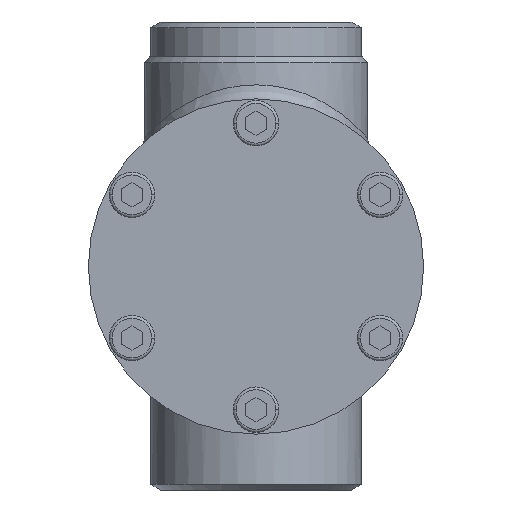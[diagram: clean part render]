
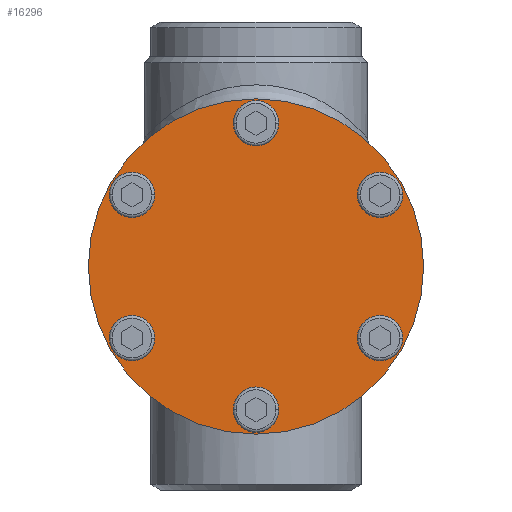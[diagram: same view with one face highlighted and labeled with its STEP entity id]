
A CAD part, front view. The second image highlights one B-rep face of the part: STEP entity #16296.
In plain terms, the highlighted planar face has unit normal (0, -1, 0) as drawn and (0, 0, -1) by its records, which use the part's own axes.
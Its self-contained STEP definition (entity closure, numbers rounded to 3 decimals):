
#16390 = EDGE_LOOP ( 'NONE', ( #15564, #14593 ) ) ;
#16465 = VERTEX_POINT ( 'NONE', #12244 ) ;
#16625 = ORIENTED_EDGE ( 'NONE', *, *, #13767, .F. ) ;
#16680 = EDGE_CURVE ( 'NONE', #16465, #16239, #13572, .T. ) ;
#16681 = EDGE_CURVE ( 'NONE', #5992, #8065, #13577, .T. ) ;
#17310 = ORIENTED_EDGE ( 'NONE', *, *, #28538, .F. ) ;
#17822 = EDGE_LOOP ( 'NONE', ( #17310, #16625 ) ) ;
#1467 = VERTEX_POINT ( 'NONE', #24530 ) ;
#18074 = ORIENTED_EDGE ( 'NONE', *, *, #6408, .F. ) ;
#1877 = EDGE_CURVE ( 'NONE', #6927, #1467, #25175, .T. ) ;
#1919 = CARTESIAN_POINT ( 'NONE',  ( 31.007, -20.5, -41.5 ) ) ;
#18409 = VERTEX_POINT ( 'NONE', #25573 ) ;
#2126 = CIRCLE ( 'NONE', #2127, 4.5 ) ;
#2127 = AXIS2_PLACEMENT_3D ( 'NONE', #2128, #2129, #2130 ) ;
#2128 = CARTESIAN_POINT ( 'NONE',  ( 35.507, -20.5, -41.5 ) ) ;
#2129 = DIRECTION ( 'NONE',  ( 0., 0., -1. ) ) ;
#2130 = DIRECTION ( 'NONE',  ( 0.5, 0.866, 0. ) ) ;
#18595 = ORIENTED_EDGE ( 'NONE', *, *, #16681, .F. ) ;
#2470 = CARTESIAN_POINT ( 'NONE',  ( 31.007, 20.5, -41.5 ) ) ;
#2541 = CARTESIAN_POINT ( 'NONE',  ( -31.007, 20.5, -41.5 ) ) ;
#19102 = VERTEX_POINT ( 'NONE', #27117 ) ;
#19121 = EDGE_LOOP ( 'NONE', ( #18595, #18074 ) ) ;
#2893 = CIRCLE ( 'NONE', #2894, 4.5 ) ;
#2894 = AXIS2_PLACEMENT_3D ( 'NONE', #2895, #2913, #2914 ) ;
#2895 = CARTESIAN_POINT ( 'NONE',  ( 35.507, 20.5, -41.5 ) ) ;
#19286 = EDGE_CURVE ( 'NONE', #18409, #19102, #27370, .T. ) ;
#2913 = DIRECTION ( 'NONE',  ( 0., 0., -1. ) ) ;
#2914 = DIRECTION ( 'NONE',  ( -0.5, 0.866, 0. ) ) ;
#19324 = ORIENTED_EDGE ( 'NONE', *, *, #7169, .F. ) ;
#19801 = EDGE_CURVE ( 'NONE', #1467, #6927, #27926, .T. ) ;
#21604 = VERTEX_POINT ( 'NONE', #9290 ) ;
#21830 = EDGE_CURVE ( 'NONE', #22719, #21604, #9695, .T. ) ;
#5992 = VERTEX_POINT ( 'NONE', #1919 ) ;
#22461 = EDGE_CURVE ( 'NONE', #16239, #16465, #10720, .T. ) ;
#22719 = VERTEX_POINT ( 'NONE', #11246 ) ;
#6408 = EDGE_CURVE ( 'NONE', #8065, #5992, #2126, .T. ) ;
#23077 = EDGE_CURVE ( 'NONE', #19102, #18409, #12401, .T. ) ;
#6760 = VERTEX_POINT ( 'NONE', #2470 ) ;
#6927 = VERTEX_POINT ( 'NONE', #2541 ) ;
#7169 = EDGE_CURVE ( 'NONE', #8824, #6760, #2893, .T. ) ;
#7887 = CIRCLE ( 'NONE', #7888, 4.5 ) ;
#7888 = AXIS2_PLACEMENT_3D ( 'NONE', #7907, #7908, #7909 ) ;
#7907 = CARTESIAN_POINT ( 'NONE',  ( 0., -41., -41.5 ) ) ;
#7908 = DIRECTION ( 'NONE',  ( 0., 0., -1. ) ) ;
#7909 = DIRECTION ( 'NONE',  ( 1., 0., 0. ) ) ;
#8065 = VERTEX_POINT ( 'NONE', #8831 ) ;
#24530 = CARTESIAN_POINT ( 'NONE',  ( -40.007, 20.5, -41.5 ) ) ;
#8536 = CIRCLE ( 'NONE', #8537, 4.5 ) ;
#8537 = AXIS2_PLACEMENT_3D ( 'NONE', #8538, #8539, #8540 ) ;
#8538 = CARTESIAN_POINT ( 'NONE',  ( 35.507, 20.5, -41.5 ) ) ;
#8539 = DIRECTION ( 'NONE',  ( 0., 0., -1. ) ) ;
#8540 = DIRECTION ( 'NONE',  ( -0.5, 0.866, 0. ) ) ;
#24989 = ORIENTED_EDGE ( 'NONE', *, *, #23077, .F. ) ;
#25175 = CIRCLE ( 'NONE', #25176, 4.5 ) ;
#25176 = AXIS2_PLACEMENT_3D ( 'NONE', #25177, #25178, #25179 ) ;
#25177 = CARTESIAN_POINT ( 'NONE',  ( -35.507, 20.5, -41.5 ) ) ;
#25178 = DIRECTION ( 'NONE',  ( 0., 0., -1. ) ) ;
#25179 = DIRECTION ( 'NONE',  ( -0.5, -0.866, 0. ) ) ;
#8824 = VERTEX_POINT ( 'NONE', #9633 ) ;
#8831 = CARTESIAN_POINT ( 'NONE',  ( 40.007, -20.5, -41.5 ) ) ;
#25573 = CARTESIAN_POINT ( 'NONE',  ( 4.5, 41., -41.5 ) ) ;
#25660 = EDGE_LOOP ( 'NONE', ( #24989, #12354 ) ) ;
#9290 = CARTESIAN_POINT ( 'NONE',  ( -40.007, -20.5, -41.5 ) ) ;
#9513 = CARTESIAN_POINT ( 'NONE',  ( 4.5, -41., -41.5 ) ) ;
#9633 = CARTESIAN_POINT ( 'NONE',  ( 40.007, 20.5, -41.5 ) ) ;
#9695 = CIRCLE ( 'NONE', #9696, 4.5 ) ;
#9696 = AXIS2_PLACEMENT_3D ( 'NONE', #9697, #9698, #9699 ) ;
#9697 = CARTESIAN_POINT ( 'NONE',  ( -35.507, -20.5, -41.5 ) ) ;
#9698 = DIRECTION ( 'NONE',  ( 0., 0., -1. ) ) ;
#9699 = DIRECTION ( 'NONE',  ( 0.5, -0.866, 0. ) ) ;
#26104 = ORIENTED_EDGE ( 'NONE', *, *, #1877, .F. ) ;
#9939 = VERTEX_POINT ( 'NONE', #10323 ) ;
#9940 = ORIENTED_EDGE ( 'NONE', *, *, #22461, .F. ) ;
#10323 = CARTESIAN_POINT ( 'NONE',  ( -4.5, -41., -41.5 ) ) ;
#27077 = ORIENTED_EDGE ( 'NONE', *, *, #19801, .F. ) ;
#10720 = CIRCLE ( 'NONE', #10721, 48. ) ;
#10721 = AXIS2_PLACEMENT_3D ( 'NONE', #10722, #10741, #10742 ) ;
#10722 = CARTESIAN_POINT ( 'NONE',  ( 0., 0., -41.5 ) ) ;
#27117 = CARTESIAN_POINT ( 'NONE',  ( -4.5, 41., -41.5 ) ) ;
#10741 = DIRECTION ( 'NONE',  ( 0., 0., 1. ) ) ;
#10742 = DIRECTION ( 'NONE',  ( 1., 0., 0. ) ) ;
#10918 = ORIENTED_EDGE ( 'NONE', *, *, #16680, .F. ) ;
#27370 = CIRCLE ( 'NONE', #27371, 4.5 ) ;
#27371 = AXIS2_PLACEMENT_3D ( 'NONE', #27372, #27373, #27374 ) ;
#27372 = CARTESIAN_POINT ( 'NONE',  ( 0., 41., -41.5 ) ) ;
#27373 = DIRECTION ( 'NONE',  ( 0., 0., -1. ) ) ;
#27374 = DIRECTION ( 'NONE',  ( -1., 0., 0. ) ) ;
#11246 = CARTESIAN_POINT ( 'NONE',  ( -31.007, -20.5, -41.5 ) ) ;
#27926 = CIRCLE ( 'NONE', #27927, 4.5 ) ;
#27927 = AXIS2_PLACEMENT_3D ( 'NONE', #27947, #27948, #27949 ) ;
#27947 = CARTESIAN_POINT ( 'NONE',  ( -35.507, 20.5, -41.5 ) ) ;
#27948 = DIRECTION ( 'NONE',  ( 0., 0., -1. ) ) ;
#27949 = DIRECTION ( 'NONE',  ( -0.5, -0.866, 0. ) ) ;
#11788 = CARTESIAN_POINT ( 'NONE',  ( -48., 0., -41.5 ) ) ;
#11864 = FACE_BOUND ( 'NONE', #15908, .T. ) ;
#11865 = FACE_BOUND ( 'NONE', #19121, .T. ) ;
#11866 = FACE_BOUND ( 'NONE', #17822, .T. ) ;
#11867 = FACE_BOUND ( 'NONE', #16390, .T. ) ;
#11868 = FACE_BOUND ( 'NONE', #14149, .T. ) ;
#11869 = FACE_BOUND ( 'NONE', #25660, .T. ) ;
#11891 = FACE_OUTER_BOUND ( 'NONE', #11907, .T. ) ;
#11907 = EDGE_LOOP ( 'NONE', ( #10918, #9940 ) ) ;
#11924 = PLANE ( 'NONE',  #11925 ) ;
#11925 = AXIS2_PLACEMENT_3D ( 'NONE', #11926, #11927, #11928 ) ;
#11926 = CARTESIAN_POINT ( 'NONE',  ( 0., 0., -41.5 ) ) ;
#11927 = DIRECTION ( 'NONE',  ( 0., 0., 1. ) ) ;
#11928 = DIRECTION ( 'NONE',  ( 1., 0., 0. ) ) ;
#28434 = EDGE_CURVE ( 'NONE', #21604, #22719, #13604, .T. ) ;
#28538 = EDGE_CURVE ( 'NONE', #9939, #15424, #13643, .T. ) ;
#12244 = CARTESIAN_POINT ( 'NONE',  ( 48., 0., -41.5 ) ) ;
#12354 = ORIENTED_EDGE ( 'NONE', *, *, #19286, .F. ) ;
#12401 = CIRCLE ( 'NONE', #12402, 4.5 ) ;
#12402 = AXIS2_PLACEMENT_3D ( 'NONE', #12403, #12423, #12424 ) ;
#12403 = CARTESIAN_POINT ( 'NONE',  ( 0., 41., -41.5 ) ) ;
#12423 = DIRECTION ( 'NONE',  ( 0., 0., -1. ) ) ;
#12424 = DIRECTION ( 'NONE',  ( -1., 0., 0. ) ) ;
#13572 = CIRCLE ( 'NONE', #13573, 48. ) ;
#13573 = AXIS2_PLACEMENT_3D ( 'NONE', #13574, #13575, #13576 ) ;
#13574 = CARTESIAN_POINT ( 'NONE',  ( 0., 0., -41.5 ) ) ;
#13575 = DIRECTION ( 'NONE',  ( 0., 0., 1. ) ) ;
#13576 = DIRECTION ( 'NONE',  ( 1., 0., 0. ) ) ;
#13577 = CIRCLE ( 'NONE', #13578, 4.5 ) ;
#13578 = AXIS2_PLACEMENT_3D ( 'NONE', #13579, #13580, #13581 ) ;
#13579 = CARTESIAN_POINT ( 'NONE',  ( 35.507, -20.5, -41.5 ) ) ;
#13580 = DIRECTION ( 'NONE',  ( 0., 0., -1. ) ) ;
#13581 = DIRECTION ( 'NONE',  ( 0.5, 0.866, 0. ) ) ;
#13604 = CIRCLE ( 'NONE', #13605, 4.5 ) ;
#13605 = AXIS2_PLACEMENT_3D ( 'NONE', #13606, #13607, #13608 ) ;
#13606 = CARTESIAN_POINT ( 'NONE',  ( -35.507, -20.5, -41.5 ) ) ;
#13607 = DIRECTION ( 'NONE',  ( 0., 0., -1. ) ) ;
#13608 = DIRECTION ( 'NONE',  ( 0.5, -0.866, 0. ) ) ;
#13643 = CIRCLE ( 'NONE', #13644, 4.5 ) ;
#13644 = AXIS2_PLACEMENT_3D ( 'NONE', #13645, #13646, #13647 ) ;
#13645 = CARTESIAN_POINT ( 'NONE',  ( 0., -41., -41.5 ) ) ;
#13646 = DIRECTION ( 'NONE',  ( 0., 0., -1. ) ) ;
#13647 = DIRECTION ( 'NONE',  ( 1., 0., 0. ) ) ;
#13767 = EDGE_CURVE ( 'NONE', #15424, #9939, #7887, .T. ) ;
#14149 = EDGE_LOOP ( 'NONE', ( #27077, #26104 ) ) ;
#14254 = EDGE_CURVE ( 'NONE', #6760, #8824, #8536, .T. ) ;
#14593 = ORIENTED_EDGE ( 'NONE', *, *, #21830, .F. ) ;
#14944 = ORIENTED_EDGE ( 'NONE', *, *, #14254, .F. ) ;
#15424 = VERTEX_POINT ( 'NONE', #9513 ) ;
#15564 = ORIENTED_EDGE ( 'NONE', *, *, #28434, .F. ) ;
#15908 = EDGE_LOOP ( 'NONE', ( #14944, #19324 ) ) ;
#16239 = VERTEX_POINT ( 'NONE', #11788 ) ;
#16296 = ADVANCED_FACE ( 'NONE', ( #11864, #11865, #11866, #11867, #11868, #11869, #11891 ), #11924, .F. ) ;
